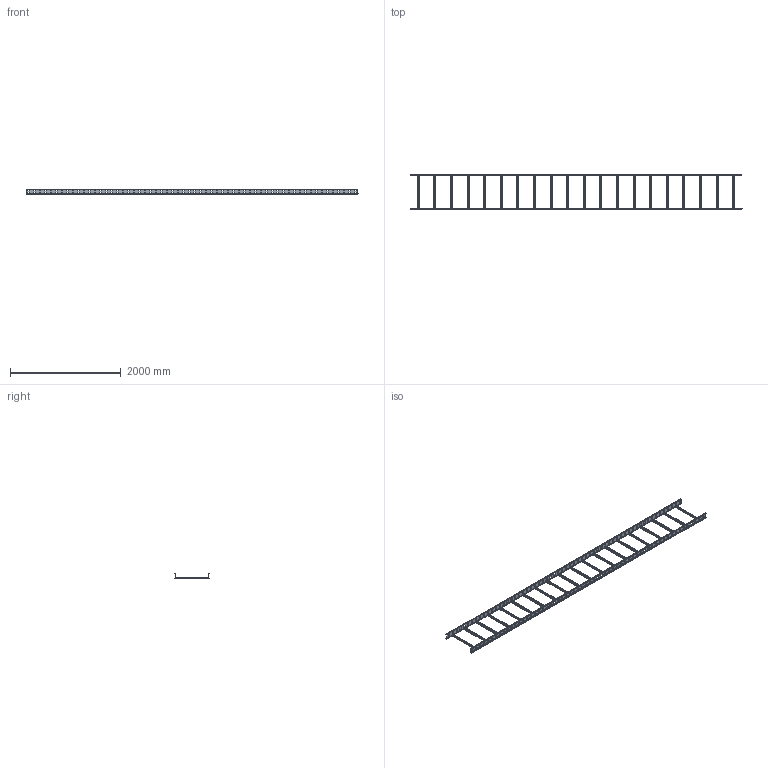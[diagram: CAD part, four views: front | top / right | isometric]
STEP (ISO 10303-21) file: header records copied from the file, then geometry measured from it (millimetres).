
FILE_DESCRIPTION(('Creo Elements/Direct Modeling STEP Export'),'2;1');
FILE_NAME('WP10-60.stp','2016-05-13T12:08:43',(''),(''),'PTC Creo Elements/Direct Modeling STEP processor for AP214 (Solid Model)','PTC Creo Elements/Direct Modeling 19.0C 15-Aug-2015 (C) Parametric Technology GmbH','');
FILE_SCHEMA(('AUTOMOTIVE_DESIGN { 1 0 10303 214 1 1 1 1 }'));
Length unit declared in the file: millimetre
Products named in the file (3): WPH_100B_S_; KHA8-06.15; WP10-60-HDG
Assembly tree (22 placements, depth 2):
  WP10-60-HDG
    KHA8-06.15  x20
    WPH_100B_S_  x2
Bounding box: 6000 x 650 x 100 mm (x, y, z)
Volume: 4560301.1 mm3; surface area: 6201944.8 mm2
Topology: 22 solids, 22 shells, 3916 faces, 11616 edges, 7744 vertices
Faces by surface type: plane 2448, cylinder 1468
Entity records: 23859 total; most frequent: ORIENTED_EDGE 4164, CARTESIAN_POINT 4147, DIRECTION 3682, EDGE_CURVE 2082, VECTOR 1836, LINE 1836, VERTEX_POINT 1388, EDGE_LOOP 1024
